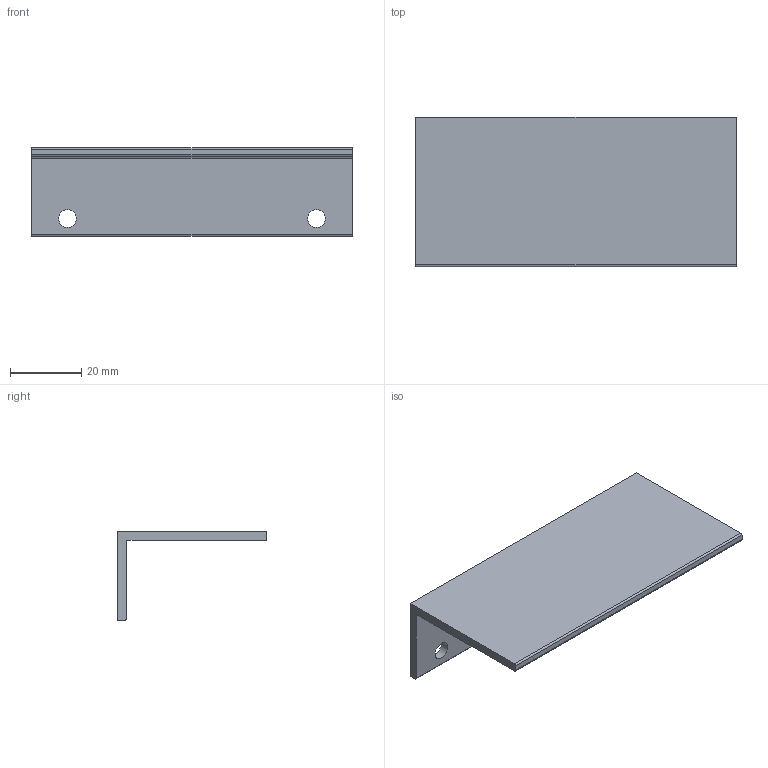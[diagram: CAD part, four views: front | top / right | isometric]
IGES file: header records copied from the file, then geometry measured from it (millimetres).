
Start section: Data from Parasolid IGES Translator 15.0.47, Copyright(c) 2006 Siemens P LM Software. All Rights Reserved.
Global section: file name:  9070593.igs; native system:  By UGS Corp.; preprocessor: XPlus GENERIC/IGES 3.0; author: Noname; organization: Noname; date: 20140122.182726; units: millimetre
Bounding box: 90 x 42 x 25 mm (x, y, z)
Surface area: 12285.6 mm2 (no closed solid volume)
Topology: 0 solids, 0 shells, 15 faces, 78 edges, 75 vertices
Faces by surface type: extrusion 8, revolution 7
